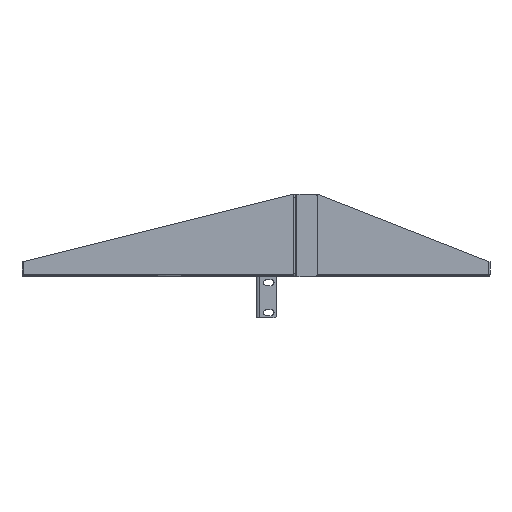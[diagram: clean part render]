
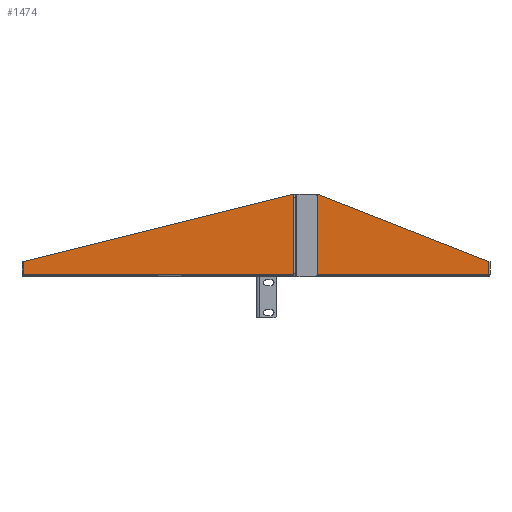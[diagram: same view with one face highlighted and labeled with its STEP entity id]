
A CAD part, left-side view. The second image highlights one B-rep face of the part: STEP entity #1474.
In plain terms, the highlighted planar face has unit normal (-1, 0, 0).
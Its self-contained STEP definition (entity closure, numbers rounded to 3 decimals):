
#1474 = ADVANCED_FACE( '', ( #3607 ), #3608, .T. );
#3607 = FACE_OUTER_BOUND( '', #6627, .T. );
#3608 = PLANE( '', #6628 );
#6627 = EDGE_LOOP( '', ( #11598, #11599, #11600, #11601, #11602, #11603, #11604, #11605 ) );
#6628 = AXIS2_PLACEMENT_3D( '', #11606, #11607, #11608 );
#11598 = ORIENTED_EDGE( '', *, *, #18271, .T. );
#11599 = ORIENTED_EDGE( '', *, *, #18272, .T. );
#11600 = ORIENTED_EDGE( '', *, *, #18273, .T. );
#11601 = ORIENTED_EDGE( '', *, *, #18274, .T. );
#11602 = ORIENTED_EDGE( '', *, *, #18275, .F. );
#11603 = ORIENTED_EDGE( '', *, *, #18276, .T. );
#11604 = ORIENTED_EDGE( '', *, *, #18277, .F. );
#11605 = ORIENTED_EDGE( '', *, *, #17218, .T. );
#11606 = CARTESIAN_POINT( '', ( -219.075, 247.65, 1.181 ) );
#11607 = DIRECTION( '', ( -1., 0., 0. ) );
#11608 = DIRECTION( '', ( 0., 0., 1. ) );
#17218 = EDGE_CURVE( '', #21060, #21058, #21061, .T. );
#18271 = EDGE_CURVE( '', #21058, #20738, #22759, .T. );
#18272 = EDGE_CURVE( '', #20738, #19907, #22760, .T. );
#18273 = EDGE_CURVE( '', #19907, #22761, #22762, .T. );
#18274 = EDGE_CURVE( '', #22761, #22763, #22764, .T. );
#18275 = EDGE_CURVE( '', #22765, #22763, #22766, .T. );
#18276 = EDGE_CURVE( '', #22765, #22767, #22768, .T. );
#18277 = EDGE_CURVE( '', #21060, #22767, #22769, .T. );
#19907 = VERTEX_POINT( '', #24835 );
#20738 = VERTEX_POINT( '', #26015 );
#21058 = VERTEX_POINT( '', #26520 );
#21060 = VERTEX_POINT( '', #26523 );
#21061 = LINE( '', #26524, #26525 );
#22759 = CIRCLE( '', #28822, 1.397 );
#22760 = LINE( '', #28823, #28824 );
#22761 = VERTEX_POINT( '', #28825 );
#22762 = CIRCLE( '', #28826, 1.397 );
#22763 = VERTEX_POINT( '', #28827 );
#22764 = LINE( '', #28828, #28829 );
#22765 = VERTEX_POINT( '', #28830 );
#22766 = LINE( '', #28831, #28832 );
#22767 = VERTEX_POINT( '', #28833 );
#22768 = LINE( '', #28834, #28835 );
#22769 = LINE( '', #28836, #28837 );
#24835 = CARTESIAN_POINT( '', ( -219.075, -245.498, 2.184 ) );
#26015 = CARTESIAN_POINT( '', ( -219.075, 245.498, 2.184 ) );
#26520 = CARTESIAN_POINT( '', ( -219.075, 246.2, 2.552 ) );
#26523 = CARTESIAN_POINT( '', ( -219.075, 246.2, 15.729 ) );
#26524 = CARTESIAN_POINT( '', ( -219.075, 246.2, 87.274 ) );
#26525 = VECTOR( '', #32038, 1000. );
#28822 = AXIS2_PLACEMENT_3D( '', #33656, #33657, #33658 );
#28823 = CARTESIAN_POINT( '', ( -219.075, 247.65, 2.184 ) );
#28824 = VECTOR( '', #33659, 1000. );
#28825 = CARTESIAN_POINT( '', ( -219.075, -246.2, 2.552 ) );
#28826 = AXIS2_PLACEMENT_3D( '', #33660, #33661, #33662 );
#28827 = CARTESIAN_POINT( '', ( -219.075, -246.2, 15.937 ) );
#28828 = CARTESIAN_POINT( '', ( -219.075, -246.2, 1.181 ) );
#28829 = VECTOR( '', #33663, 1000. );
#28830 = CARTESIAN_POINT( '', ( -219.075, -65.1, 87.274 ) );
#28831 = CARTESIAN_POINT( '', ( -219.075, 176.283, 182.358 ) );
#28832 = VECTOR( '', #33664, 1000. );
#28833 = CARTESIAN_POINT( '', ( -219.075, -39.7, 87.274 ) );
#28834 = CARTESIAN_POINT( '', ( -219.075, -247.65, 87.274 ) );
#28835 = VECTOR( '', #33665, 1000. );
#28836 = CARTESIAN_POINT( '', ( -219.075, 250.991, 14.53 ) );
#28837 = VECTOR( '', #33666, 1000. );
#32038 = DIRECTION( '', ( 0., 0., -1. ) );
#33656 = CARTESIAN_POINT( '', ( -219.075, 246.469, 1.181 ) );
#33657 = DIRECTION( '', ( 1., 0., 0. ) );
#33658 = DIRECTION( '', ( 0., 1., 0. ) );
#33659 = DIRECTION( '', ( 0., -1., 0. ) );
#33660 = CARTESIAN_POINT( '', ( -219.075, -246.469, 1.181 ) );
#33661 = DIRECTION( '', ( 1., 0., 0. ) );
#33662 = DIRECTION( '', ( 0., -1., 0. ) );
#33663 = DIRECTION( '', ( 0., 0., 1. ) );
#33664 = DIRECTION( '', ( 0., -0.93, -0.367 ) );
#33665 = DIRECTION( '', ( 0., 1., 0. ) );
#33666 = DIRECTION( '', ( 0., -0.97, 0.243 ) );
